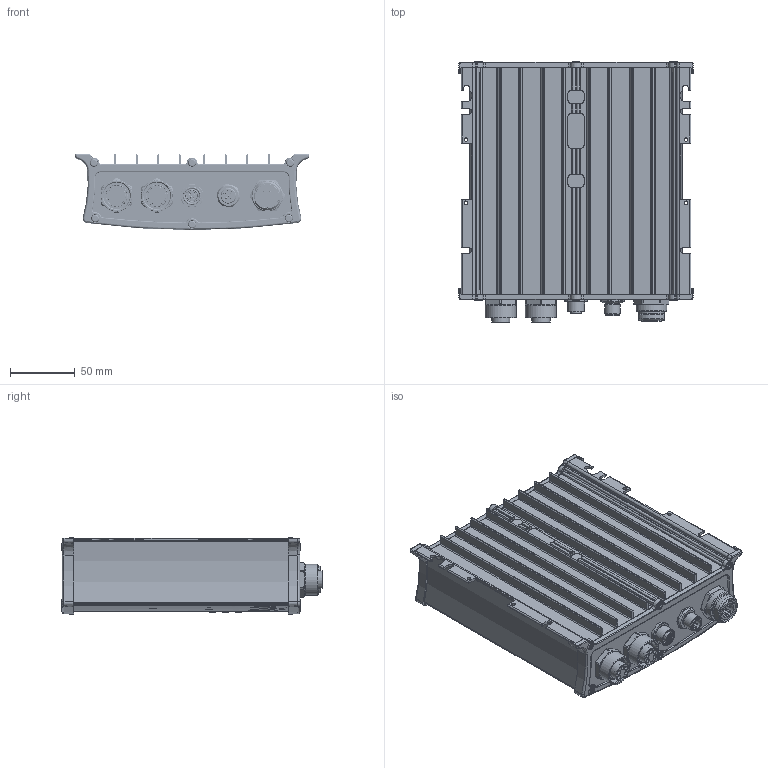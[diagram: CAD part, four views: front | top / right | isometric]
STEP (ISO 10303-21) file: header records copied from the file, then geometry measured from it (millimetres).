
FILE_DESCRIPTION (( 'STEP AP214' ), '1' );
FILE_NAME ('451.49.01.STEP', '2024-07-30T06:03:48', ( '' ), ( '' ), 'SwSTEP 2.0', 'SolidWorks 2024', '' );
FILE_SCHEMA (( 'AUTOMOTIVE_DESIGN' ));
Length unit declared in the file: millimetre
Products named in the file (1): 451.49.01
Bounding box: 180.63 x 200.6 x 58.73 mm (x, y, z)
Volume: 280651.4 mm3; surface area: 350721.5 mm2
Topology: 43 solids, 46 shells, 2967 faces, 8422 edges, 5870 vertices
Faces by surface type: plane 1070, cylinder 1005, torus 443, cone 265, bspline 180, sphere 4
Full cylindrical faces by diameter (mm): 0.56 x6, 0.95 x5, 1 x5, 1.1 x5, 1.3 x10, 1.411 x1, 1.457 x1, 1.486 x1, 1.527 x1, 1.6 x15, 2 x10, 2.2 x10, 2.4 x3, 2.5 x8, 2.501 x16, 2.52 x2, 2.6 x10, 2.7 x4, 3 x12, 3.3 x10, 3.6 x12, 5 x3, 6 x24, 8.2 x1, 8.3 x1, 10.5 x1, 10.65 x1, 10.917 x1, 11 x1, 12 x1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
Entity records: 159765 total; most frequent: CARTESIAN_POINT 53450, ORIENTED_EDGE 15740, DIRECTION 14242, EDGE_CURVE 7870, VERTEX_POINT 5702, AXIS2_PLACEMENT_3D 5695, EDGE_LOOP 3786, FACE_OUTER_BOUND 3287
